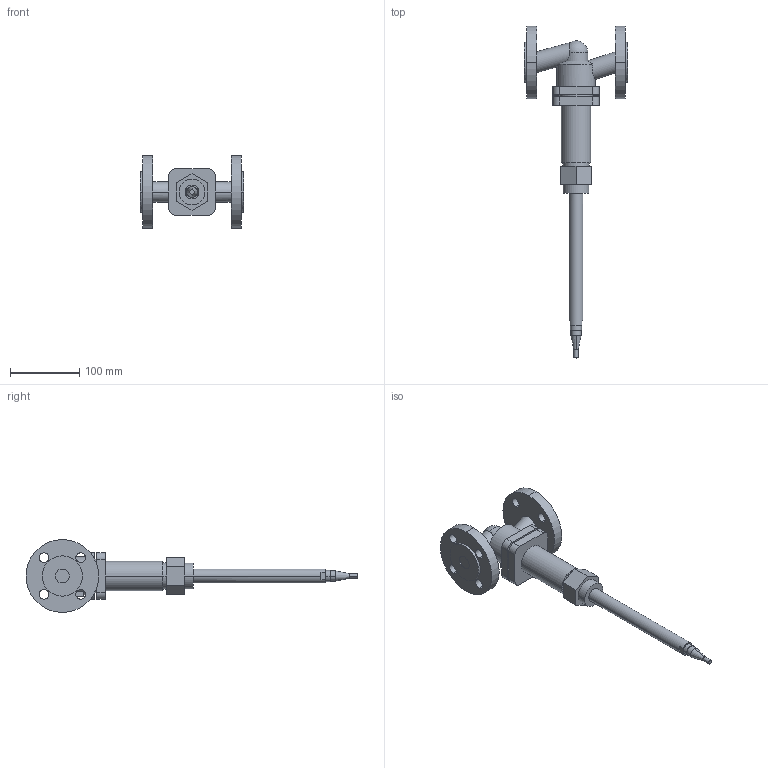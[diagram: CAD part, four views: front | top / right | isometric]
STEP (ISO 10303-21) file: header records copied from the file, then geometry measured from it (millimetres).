
FILE_DESCRIPTION(('CoCreate Modeling STEP Export'),'2;1');
FILE_NAME('c000001231.stp','2011-09-21T 8:38:23',(''),(''),'CoCreate Modeling STEP processor for AP214 (Solid Model)','CoCreate Modeling 17.0 01-Apr-2010 (C) Parametric Technology GmbH','');
FILE_SCHEMA(('AUTOMOTIVE_DESIGN { 1 0 10303 214 1 1 1 1 }'));
Length unit declared in the file: millimetre
Products named in the file (1): 1
Bounding box: 150 x 478.94 x 105 mm (x, y, z)
Volume: 777437.6 mm3; surface area: 114123.9 mm2
Topology: 1 solids, 1 shells, 118 faces, 290 edges, 191 vertices
Faces by surface type: cylinder 60, plane 52, cone 4, sphere 2
Entity records: 5341 total; most frequent: CARTESIAN_POINT 1750, ORIENTED_EDGE 576, DIRECTION 485, EDGE_CURVE 288, VERTEX_POINT 191, AXIS2_PLACEMENT_3D 170, EDGE_LOOP 153, VECTOR 145
